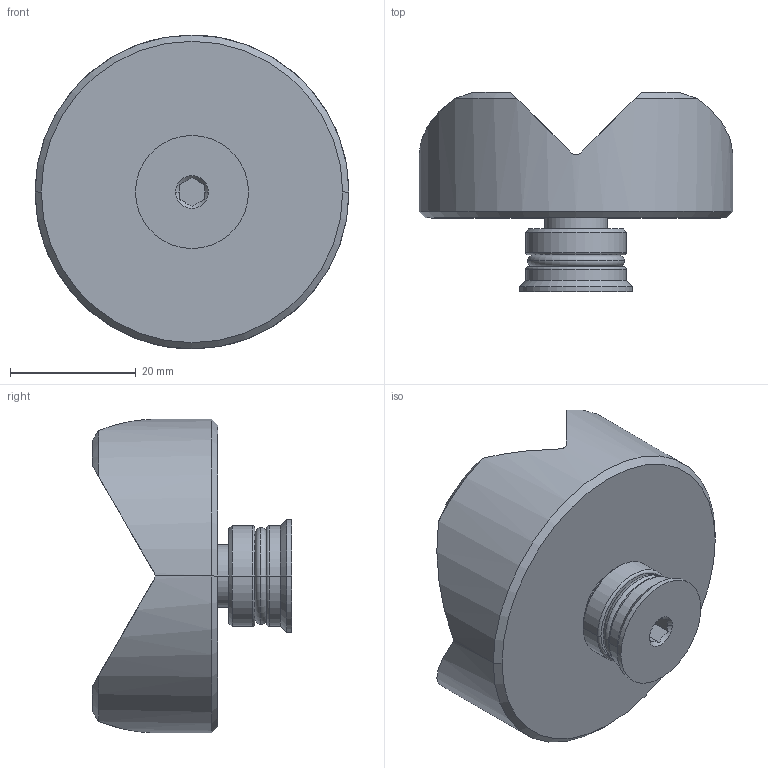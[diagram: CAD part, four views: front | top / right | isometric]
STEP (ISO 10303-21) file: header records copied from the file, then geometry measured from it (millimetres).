
FILE_DESCRIPTION (( 'STEP AP203' ), '1' );
FILE_NAME ('160645.1.STEP', '2020-07-09T11:31:38', ( '' ), ( '' ), 'SwSTEP 2.0', 'SolidWorks 2019', '' );
FILE_SCHEMA (( 'CONFIG_CONTROL_DESIGN' ));
Length unit declared in the file: millimetre
Products named in the file (5): 160645.1; 160649.0 Spezialschraube_nitriert; O-Ring 11,8x1,8 DIN 3771; 160645.1.T1 Vario Prisma D50 90_120_nitriert
Assembly tree (4 placements, depth 3):
  160645.1
    160645.1.T1 Vario Prisma D50 90_120_nitriert
    160649.0 Spezialschraube_nitriert
      160649.0 Spezialschraube_nitriert
      O-Ring 11,8x1,8 DIN 3771
Bounding box: 50 x 31.76 x 50 mm (x, y, z)
Volume: 29966.9 mm3; surface area: 8587.6 mm2
Topology: 3 solids, 3 shells, 71 faces, 168 edges, 104 vertices
Faces by surface type: plane 25, cylinder 18, cone 16, torus 12
Entity records: 2667 total; most frequent: CARTESIAN_POINT 555, DIRECTION 348, ORIENTED_EDGE 336, EDGE_CURVE 168, AXIS2_PLACEMENT_3D 145, VERTEX_POINT 104, EDGE_LOOP 76, FACE_OUTER_BOUND 71
